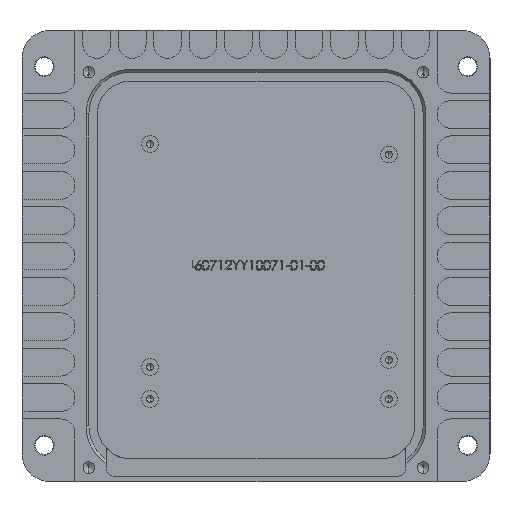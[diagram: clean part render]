
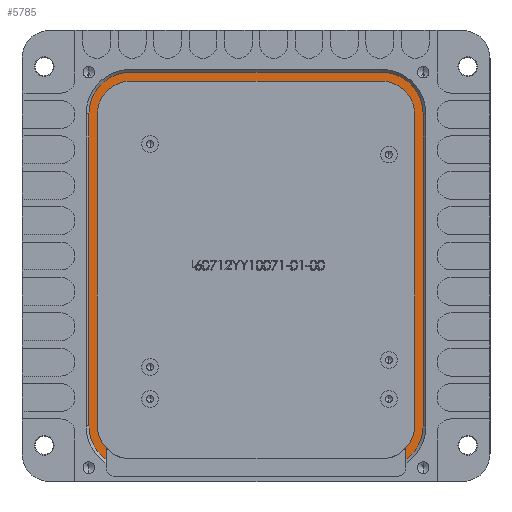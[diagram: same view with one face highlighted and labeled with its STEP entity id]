
A CAD part, front view. The second image highlights one B-rep face of the part: STEP entity #5785.
In plain terms, the highlighted planar face has unit normal (0, -1, 0).
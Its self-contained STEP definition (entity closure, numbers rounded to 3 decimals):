
#303 = CARTESIAN_POINT ( 'NONE',  ( 60., 3.4, -56. ) ) ;
#319 = ORIENTED_EDGE ( 'NONE', *, *, #2183, .F. ) ;
#337 = VERTEX_POINT ( 'NONE', #7272 ) ;
#512 = AXIS2_PLACEMENT_3D ( 'NONE', #14320, #10981, #21122 ) ;
#792 = DIRECTION ( 'NONE',  ( -1., 0., 0. ) ) ;
#981 = ORIENTED_EDGE ( 'NONE', *, *, #3785, .F. ) ;
#1015 = ORIENTED_EDGE ( 'NONE', *, *, #16504, .T. ) ;
#1171 = DIRECTION ( 'NONE',  ( 0., 0., 1. ) ) ;
#1261 = DIRECTION ( 'NONE',  ( 0., -1., 0. ) ) ;
#1395 = ORIENTED_EDGE ( 'NONE', *, *, #14119, .T. ) ;
#1526 = VECTOR ( 'NONE', #21931, 1000. ) ;
#1606 = VECTOR ( 'NONE', #15558, 1000. ) ;
#1642 = CARTESIAN_POINT ( 'NONE',  ( -53.8, 3.4, -63.958 ) ) ;
#1777 = DIRECTION ( 'NONE',  ( 0., -1., 0. ) ) ;
#1839 = CARTESIAN_POINT ( 'NONE',  ( 60., 3.4, -56. ) ) ;
#1850 = LINE ( 'NONE', #1642, #9690 ) ;
#2183 = EDGE_CURVE ( 'NONE', #10479, #11060, #21414, .T. ) ;
#2295 = CIRCLE ( 'NONE', #7969, 15. ) ;
#2300 = ORIENTED_EDGE ( 'NONE', *, *, #21302, .F. ) ;
#2328 = CARTESIAN_POINT ( 'NONE',  ( 53.8, 3.4, -68.147 ) ) ;
#2471 = AXIS2_PLACEMENT_3D ( 'NONE', #7647, #4296, #11086 ) ;
#3131 = EDGE_CURVE ( 'NONE', #7024, #8558, #9582, .T. ) ;
#3202 = CARTESIAN_POINT ( 'NONE',  ( 45., 3.4, 71. ) ) ;
#3226 = CARTESIAN_POINT ( 'NONE',  ( -60., 3.4, 71. ) ) ;
#3785 = EDGE_CURVE ( 'NONE', #20940, #10479, #4239, .T. ) ;
#4239 = CIRCLE ( 'NONE', #20965, 12. ) ;
#4240 = CARTESIAN_POINT ( 'NONE',  ( -45., 3.4, 67.8 ) ) ;
#4296 = DIRECTION ( 'NONE',  ( 0., -1., 0. ) ) ;
#4423 = ORIENTED_EDGE ( 'NONE', *, *, #15229, .F. ) ;
#5100 = CARTESIAN_POINT ( 'NONE',  ( 45., 3.4, 56. ) ) ;
#5118 = AXIS2_PLACEMENT_3D ( 'NONE', #15612, #20412, #13831 ) ;
#5785 = ADVANCED_FACE ( 'NONE', ( #6374 ), #6703, .T. ) ;
#5838 = CIRCLE ( 'NONE', #512, 15. ) ;
#5843 = CIRCLE ( 'NONE', #21854, 12. ) ;
#6205 = CARTESIAN_POINT ( 'NONE',  ( -45., 3.4, 67.8 ) ) ;
#6251 = VECTOR ( 'NONE', #18852, 1000. ) ;
#6262 = EDGE_CURVE ( 'NONE', #7453, #12946, #8864, .T. ) ;
#6374 = FACE_OUTER_BOUND ( 'NONE', #19272, .T. ) ;
#6703 = PLANE ( 'NONE',  #16809 ) ;
#6765 = CARTESIAN_POINT ( 'NONE',  ( -45., 3.4, 55.8 ) ) ;
#6819 = ORIENTED_EDGE ( 'NONE', *, *, #19940, .F. ) ;
#7010 = VECTOR ( 'NONE', #20079, 1000. ) ;
#7024 = VERTEX_POINT ( 'NONE', #11036 ) ;
#7253 = CARTESIAN_POINT ( 'NONE',  ( -60., 3.4, 56. ) ) ;
#7272 = CARTESIAN_POINT ( 'NONE',  ( -53.8, 3.4, -63.958 ) ) ;
#7453 = VERTEX_POINT ( 'NONE', #1839 ) ;
#7582 = LINE ( 'NONE', #4240, #14741 ) ;
#7647 = CARTESIAN_POINT ( 'NONE',  ( 45., 3.4, 55.8 ) ) ;
#7730 = VERTEX_POINT ( 'NONE', #13607 ) ;
#7969 = AXIS2_PLACEMENT_3D ( 'NONE', #5100, #1777, #17248 ) ;
#8017 = EDGE_CURVE ( 'NONE', #12946, #20893, #2295, .T. ) ;
#8263 = CARTESIAN_POINT ( 'NONE',  ( -57., 3.4, -55.8 ) ) ;
#8281 = AXIS2_PLACEMENT_3D ( 'NONE', #11190, #16642, #1171 ) ;
#8399 = CARTESIAN_POINT ( 'NONE',  ( -60., 3.4, -56. ) ) ;
#8421 = DIRECTION ( 'NONE',  ( 0., 0., -1. ) ) ;
#8552 = VERTEX_POINT ( 'NONE', #8399 ) ;
#8558 = VERTEX_POINT ( 'NONE', #11834 ) ;
#8637 = CARTESIAN_POINT ( 'NONE',  ( -53.8, 3.4, -68.147 ) ) ;
#8715 = LINE ( 'NONE', #20524, #6251 ) ;
#8864 = LINE ( 'NONE', #303, #11148 ) ;
#8895 = CARTESIAN_POINT ( 'NONE',  ( -57., 3.4, 55.8 ) ) ;
#8915 = ORIENTED_EDGE ( 'NONE', *, *, #14967, .F. ) ;
#8999 = VERTEX_POINT ( 'NONE', #7253 ) ;
#9569 = CARTESIAN_POINT ( 'NONE',  ( 60., 3.4, 56. ) ) ;
#9582 = CIRCLE ( 'NONE', #2471, 12. ) ;
#9690 = VECTOR ( 'NONE', #8421, 1000. ) ;
#9789 = CIRCLE ( 'NONE', #21517, 15. ) ;
#9827 = CARTESIAN_POINT ( 'NONE',  ( -45., 3.4, -56. ) ) ;
#9998 = DIRECTION ( 'NONE',  ( 0., -1., 0. ) ) ;
#10108 = DIRECTION ( 'NONE',  ( 0., 0., 1. ) ) ;
#10203 = DIRECTION ( 'NONE',  ( 0., -1., 0. ) ) ;
#10307 = DIRECTION ( 'NONE',  ( 0., 0., 1. ) ) ;
#10396 = CARTESIAN_POINT ( 'NONE',  ( -57., 3.4, -55.8 ) ) ;
#10479 = VERTEX_POINT ( 'NONE', #8895 ) ;
#10659 = CARTESIAN_POINT ( 'NONE',  ( -45., 3.4, 71. ) ) ;
#10981 = DIRECTION ( 'NONE',  ( 0., -1., 0. ) ) ;
#11036 = CARTESIAN_POINT ( 'NONE',  ( 57., 3.4, 55.8 ) ) ;
#11060 = VERTEX_POINT ( 'NONE', #10396 ) ;
#11086 = DIRECTION ( 'NONE',  ( 0., 0., 1. ) ) ;
#11148 = VECTOR ( 'NONE', #14210, 1000. ) ;
#11190 = CARTESIAN_POINT ( 'NONE',  ( 45., 3.4, -55.8 ) ) ;
#11467 = CIRCLE ( 'NONE', #8281, 12. ) ;
#11747 = CARTESIAN_POINT ( 'NONE',  ( -45., 3.4, -55.8 ) ) ;
#11834 = CARTESIAN_POINT ( 'NONE',  ( 45., 3.4, 67.8 ) ) ;
#12136 = ORIENTED_EDGE ( 'NONE', *, *, #13573, .F. ) ;
#12229 = EDGE_CURVE ( 'NONE', #19755, #7453, #5838, .T. ) ;
#12946 = VERTEX_POINT ( 'NONE', #9569 ) ;
#13501 = DIRECTION ( 'NONE',  ( 0., 0., -1. ) ) ;
#13529 = VERTEX_POINT ( 'NONE', #17539 ) ;
#13573 = EDGE_CURVE ( 'NONE', #7730, #7024, #19763, .T. ) ;
#13607 = CARTESIAN_POINT ( 'NONE',  ( 57., 3.4, -55.8 ) ) ;
#13747 = VERTEX_POINT ( 'NONE', #10659 ) ;
#13778 = CARTESIAN_POINT ( 'NONE',  ( 53.8, 3.4, -68.147 ) ) ;
#13831 = DIRECTION ( 'NONE',  ( 0., 0., -1. ) ) ;
#14119 = EDGE_CURVE ( 'NONE', #20893, #13747, #8715, .T. ) ;
#14210 = DIRECTION ( 'NONE',  ( 0., 0., 1. ) ) ;
#14320 = CARTESIAN_POINT ( 'NONE',  ( 45., 3.4, -56. ) ) ;
#14741 = VECTOR ( 'NONE', #792, 1000. ) ;
#14967 = EDGE_CURVE ( 'NONE', #8999, #13747, #20791, .T. ) ;
#15175 = DIRECTION ( 'NONE',  ( 0., -1., 0. ) ) ;
#15229 = EDGE_CURVE ( 'NONE', #11060, #337, #5843, .T. ) ;
#15558 = DIRECTION ( 'NONE',  ( 0., 0., 1. ) ) ;
#15612 = CARTESIAN_POINT ( 'NONE',  ( -45., 3.4, 56. ) ) ;
#15867 = EDGE_CURVE ( 'NONE', #8558, #20940, #7582, .T. ) ;
#16268 = EDGE_CURVE ( 'NONE', #19755, #13529, #19135, .T. ) ;
#16301 = CARTESIAN_POINT ( 'NONE',  ( 57., 3.4, 55.8 ) ) ;
#16504 = EDGE_CURVE ( 'NONE', #8552, #20957, #9789, .T. ) ;
#16616 = DIRECTION ( 'NONE',  ( 0., 0., -1. ) ) ;
#16642 = DIRECTION ( 'NONE',  ( 0., -1., 0. ) ) ;
#16739 = DIRECTION ( 'NONE',  ( 0., 0., 1. ) ) ;
#16756 = ORIENTED_EDGE ( 'NONE', *, *, #3131, .F. ) ;
#16809 = AXIS2_PLACEMENT_3D ( 'NONE', #9827, #1261, #16616 ) ;
#17005 = ORIENTED_EDGE ( 'NONE', *, *, #16268, .F. ) ;
#17223 = ORIENTED_EDGE ( 'NONE', *, *, #12229, .T. ) ;
#17248 = DIRECTION ( 'NONE',  ( 0., 0., -1. ) ) ;
#17539 = CARTESIAN_POINT ( 'NONE',  ( 53.8, 3.4, -63.958 ) ) ;
#18478 = LINE ( 'NONE', #3226, #1526 ) ;
#18749 = CARTESIAN_POINT ( 'NONE',  ( -45., 3.4, -56. ) ) ;
#18852 = DIRECTION ( 'NONE',  ( -1., 0., 0. ) ) ;
#19135 = LINE ( 'NONE', #13778, #1606 ) ;
#19272 = EDGE_LOOP ( 'NONE', ( #1395, #8915, #21917, #1015, #6819, #4423, #319, #981, #20465, #16756, #12136, #2300, #17005, #17223, #21667, #20477 ) ) ;
#19382 = VECTOR ( 'NONE', #16739, 1000. ) ;
#19755 = VERTEX_POINT ( 'NONE', #2328 ) ;
#19763 = LINE ( 'NONE', #16301, #19382 ) ;
#19940 = EDGE_CURVE ( 'NONE', #337, #20957, #1850, .T. ) ;
#20079 = DIRECTION ( 'NONE',  ( 0., 0., -1. ) ) ;
#20412 = DIRECTION ( 'NONE',  ( 0., 1., 0. ) ) ;
#20465 = ORIENTED_EDGE ( 'NONE', *, *, #15867, .F. ) ;
#20477 = ORIENTED_EDGE ( 'NONE', *, *, #8017, .T. ) ;
#20524 = CARTESIAN_POINT ( 'NONE',  ( 45., 3.4, 71. ) ) ;
#20642 = EDGE_CURVE ( 'NONE', #8999, #8552, #18478, .T. ) ;
#20791 = CIRCLE ( 'NONE', #5118, 15. ) ;
#20893 = VERTEX_POINT ( 'NONE', #3202 ) ;
#20940 = VERTEX_POINT ( 'NONE', #6205 ) ;
#20957 = VERTEX_POINT ( 'NONE', #8637 ) ;
#20965 = AXIS2_PLACEMENT_3D ( 'NONE', #6765, #9998, #10108 ) ;
#21122 = DIRECTION ( 'NONE',  ( 0., 0., -1. ) ) ;
#21302 = EDGE_CURVE ( 'NONE', #13529, #7730, #11467, .T. ) ;
#21414 = LINE ( 'NONE', #8263, #7010 ) ;
#21517 = AXIS2_PLACEMENT_3D ( 'NONE', #18749, #15175, #13501 ) ;
#21667 = ORIENTED_EDGE ( 'NONE', *, *, #6262, .T. ) ;
#21854 = AXIS2_PLACEMENT_3D ( 'NONE', #11747, #10203, #10307 ) ;
#21917 = ORIENTED_EDGE ( 'NONE', *, *, #20642, .T. ) ;
#21931 = DIRECTION ( 'NONE',  ( 0., 0., -1. ) ) ;
